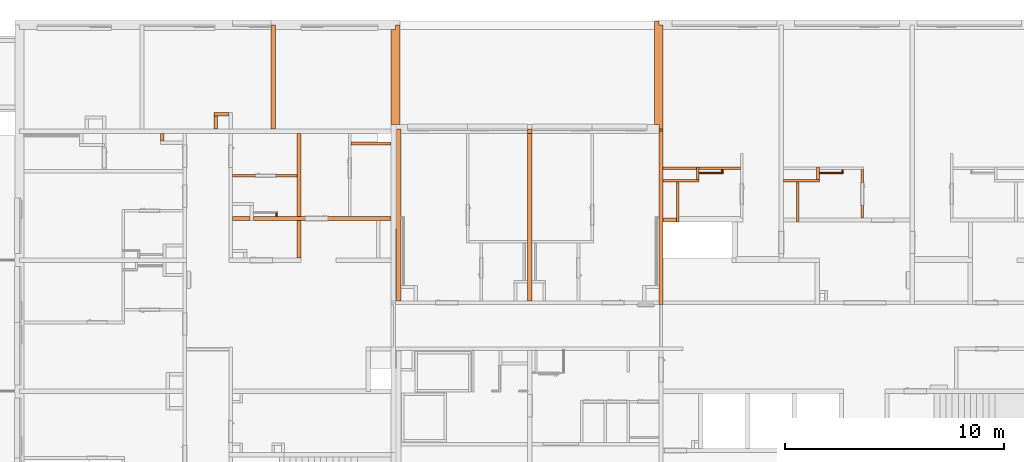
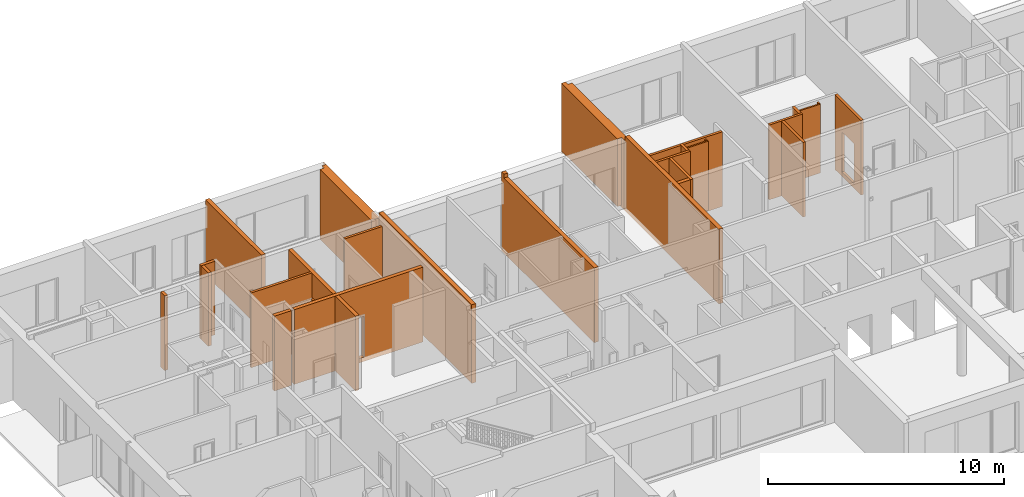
# One storey, part 41 of 46: 27 proxies, 3 openings.
"""IFC2X3 building model written with IfcOpenShell, lengths in millimetres."""

from ifc_helpers import new_model, entity, si_unit, converted_unit, derived_unit, money_unit, direction, frame, origin_with_axes, origin_2d_with_axis, place, context, subcontext, project, spatial, rectangle, extrude, faceted_brep, material, material_list, type_object, element, save


model = new_model("IFC2X3")

# Units and contexts
model_context = context("Model", 3, precision=0.01, world=origin_with_axes(), true_north=direction((0.34421633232, 0.938890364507)))
body_context = subcontext(model_context, "Body", "Model", "MODEL_VIEW")
ifc_project = project(units=[si_unit("LENGTHUNIT", "METRE", prefix="MILLI"), si_unit("AREAUNIT", "SQUARE_METRE"), si_unit("VOLUMEUNIT", "CUBIC_METRE"), converted_unit("PLANEANGLEUNIT", "DEGREE", entity("IfcPlaneAngleMeasure", 0.0174532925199), si_unit("PLANEANGLEUNIT", "RADIAN"), dimensions=[0, 0, 0, 0, 0, 0, 0]), si_unit("SOLIDANGLEUNIT", "STERADIAN"), money_unit("USD"), converted_unit("TIMEUNIT", "Year", entity("IfcTimeMeasure", 31556926.0), si_unit("TIMEUNIT", "SECOND"), dimensions=[0, 0, 1, 0, 0, 0, 0]), si_unit("MASSUNIT", "GRAM", prefix="KILO"), si_unit("THERMODYNAMICTEMPERATUREUNIT", "DEGREE_CELSIUS"), si_unit("LUMINOUSINTENSITYUNIT", "LUMEN"), si_unit("ENERGYUNIT", "JOULE", prefix="MEGA"), derived_unit("THERMALCONDUCTANCEUNIT", [(si_unit("POWERUNIT", "WATT"), 1), (si_unit("LENGTHUNIT", "METRE"), -1), (si_unit("THERMODYNAMICTEMPERATUREUNIT", "KELVIN"), -1)]), derived_unit("SPECIFICHEATCAPACITYUNIT", [(si_unit("ENERGYUNIT", "JOULE"), 1), (si_unit("MASSUNIT", "GRAM", prefix="KILO"), -1), (si_unit("THERMODYNAMICTEMPERATUREUNIT", "KELVIN"), -1)]), derived_unit("MASSDENSITYUNIT", [(si_unit("MASSUNIT", "GRAM", prefix="KILO"), 1), (si_unit("VOLUMEUNIT", "CUBIC_METRE"), -1)])], contexts=[model_context])

# Site, building, storey
site_placement = place(None, origin_with_axes())
site = spatial("IfcSite", under=ifc_project, at=site_placement, Name="USTRONIE MORSKIE", CompositionType="ELEMENT")
building_placement = place(site_placement, origin_with_axes())
building = spatial("IfcBuilding", under=site, at=building_placement, Name="Budynek", CompositionType="ELEMENT")
storey_placement = place(building_placement, origin_with_axes())
storey = spatial("IfcBuildingStorey", under=building, at=storey_placement, Name="PARTER", CompositionType="ELEMENT", Elevation=0.0)

# Proxy, opening
ifc_material_1 = material(Name="Bloczki silikatowe")
building_element_proxy_type_1 = type_object("IfcBuildingElementProxyType", Name="Bloczki silikatowe 120", PredefinedType="NOTDEFINED")
proxy_1_placement = place(storey_placement, frame((388517.920919, 743001.199021, -230.0), z_axis=(0.0, 0.0, 1.0), x_axis=(0.0, -1.0, 0.0)))
proxy_1 = element("IfcBuildingElementProxy", 1, at=proxy_1_placement, inside=storey, type_object=building_element_proxy_type_1, material=ifc_material_1, Name="SW-04", context=body_context, shape_type="Brep", body=[
    faceted_brep([(2279.99998521, -60.0, 3870.0), (2279.99998521, 60.0, 3870.0), (59.9999999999, 60.0, 3870.0), (59.9999999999, -60.0, 3870.0), (2279.99998521, -60.0, 0.0), (2279.99998521, 60.0, 0.0), (59.9999999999, 60.0, 0.0), (59.9999999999, -60.0, 0.0)], [[[0, 1, 2, 3]], [[1, 0, 4, 5]], [[1, 5, 6, 2]], [[7, 3, 2, 6]], [[4, 0, 3, 7]], [[5, 4, 7, 6]]]),
])
opening_1_placement = place(proxy_1_placement, frame((1170.0, 0.0, 230.0), z_axis=(0.0, 0.0, 1.0), x_axis=(1.0, 0.0, 0.0)))
element("IfcOpeningElement", 2, at=opening_1_placement, cuts=proxy_1, Name="Dw.4'", context=body_context, shape_type="SweptSolid", body=[
    extrude(rectangle(XDim=1020.0, YDim=2070.0, at=origin_2d_with_axis()), frame((0.0, -120.0, 1035.0), z_axis=(0.0, 1.0, 0.0), x_axis=(1.0, 0.0, 0.0)), (0.0, 0.0, 1.0), 360.0),
    extrude(rectangle(XDim=1094.0, YDim=2177.0, at=origin_2d_with_axis()), frame((0.0, -60.0, 1088.5), z_axis=(0.0, 1.0, 0.0), x_axis=(1.0, 0.0, 0.0)), (0.0, 0.0, -1.0), 120.0),
    extrude(rectangle(XDim=1094.0, YDim=2177.0, at=origin_2d_with_axis()), frame((0.0, 60.0, 1088.5), z_axis=(0.0, -1.0, 0.0), x_axis=(1.0, 0.0, 0.0)), (0.0, 0.0, -1.0), 120.0),
])

# Proxies
proxy_2_placement = place(storey_placement, frame((380077.924326, 740631.199036, -230.0), z_axis=(0.0, 0.0, 1.0), x_axis=(0.0, 1.0, 0.0)))
element("IfcBuildingElementProxy", 3, at=proxy_2_placement, inside=storey, type_object=building_element_proxy_type_1, material=ifc_material_1, Name="Ściana-010", context=body_context, shape_type="Brep", body=[
    faceted_brep([(-90.0, -60.0, 3870.0), (1740.00090117, -60.0, 3870.0), (1740.00090117, 60.0, 3870.0), (-90.0, 60.0, 3870.0), (-90.0, -60.0, 0.0), (1740.00090117, -60.0, 0.0), (1740.00090117, 60.0, 0.0), (-90.0, 60.0, 0.0)], [[[0, 1, 2, 3]], [[4, 5, 1, 0]], [[6, 2, 1, 5]], [[3, 2, 6, 7]], [[7, 4, 0, 3]], [[7, 6, 5, 4]]]),
])
proxy_3_placement = place(storey_placement, frame((379317.930522, 742431.199937, -230.0), z_axis=(0.0, 0.0, 1.0), x_axis=(1.0, 0.0, 0.0)))
element("IfcBuildingElementProxy", 4, at=proxy_3_placement, inside=storey, type_object=building_element_proxy_type_1, material=ifc_material_1, Name="Ściana-010", context=body_context, shape_type="Brep", body=[
    faceted_brep([(1739.99039729, -59.9999999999, 3870.0), (1739.99039729, 59.9999999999, 3870.0), (99.9903972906, 59.9999999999, 3870.0), (99.9903972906, -59.9999999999, 3870.0), (1739.99039729, -59.9999999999, 0.0), (1739.99039729, 59.9999999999, 0.0), (99.9903972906, 59.9999999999, 0.0), (99.9903972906, -59.9999999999, 0.0)], [[[0, 1, 2, 3]], [[1, 0, 4, 5]], [[1, 5, 6, 2]], [[7, 3, 2, 6]], [[4, 0, 3, 7]], [[5, 4, 7, 6]]]),
])

# Proxy, opening
proxy_4_placement = place(storey_placement, frame((362757.920874, 742661.199128, -230.0), z_axis=(0.0, 0.0, 1.0), x_axis=(-1.0, 0.0, 0.0)))
proxy_4 = element("IfcBuildingElementProxy", 5, at=proxy_4_placement, inside=storey, type_object=building_element_proxy_type_1, material=ifc_material_1, Name="SW-04", context=body_context, shape_type="Brep", body=[
    faceted_brep([(3059.99730875, 59.9999999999, 0.0), (3059.99730875, -59.9999999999, 0.0), (90.0, -59.9999999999, 0.0), (90.0, 59.9999999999, 0.0), (3059.99730875, 59.9999999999, 3870.0), (3059.99730875, -59.9999999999, 3870.0), (90.0, -59.9999999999, 3870.0), (90.0, 59.9999999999, 3870.0)], [[[0, 1, 2, 3]], [[1, 0, 4, 5]], [[1, 5, 6, 2]], [[7, 3, 2, 6]], [[4, 0, 3, 7]], [[5, 4, 7, 6]]]),
])
opening_2_placement = place(proxy_4_placement, frame((1539.99816017, 0.0, 230.0), z_axis=(0.0, 0.0, 1.0), x_axis=(1.0, 0.0, 0.0)))
element("IfcOpeningElement", 6, at=opening_2_placement, cuts=proxy_4, Name="Dw.4", context=body_context, shape_type="SweptSolid", body=[
    extrude(rectangle(XDim=920.0, YDim=2070.0, at=origin_2d_with_axis()), frame((0.0, -120.0, 1035.0), z_axis=(0.0, 1.0, 0.0), x_axis=(-1.0, 0.0, 0.0)), (0.0, 0.0, 1.0), 360.0),
    extrude(rectangle(XDim=994.0, YDim=2177.0, at=origin_2d_with_axis()), frame((0.0, -59.9999999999, 1088.5), z_axis=(0.0, 1.0, 0.0), x_axis=(-1.0, 0.0, 0.0)), (0.0, 0.0, -1.0), 120.0),
    extrude(rectangle(XDim=994.0, YDim=2177.0, at=origin_2d_with_axis()), frame((0.0, 60.0000000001, 1088.5), z_axis=(0.0, -1.0, 0.0), x_axis=(-1.0, 0.0, 0.0)), (0.0, 0.0, -1.0), 120.0),
])

# Proxies
proxy_5_placement = place(storey_placement, frame((385577.924326, 740631.199036, -230.0), z_axis=(0.0, 0.0, 1.0), x_axis=(0.0, 1.0, 0.0)))
element("IfcBuildingElementProxy", 7, at=proxy_5_placement, inside=storey, type_object=building_element_proxy_type_1, material=ifc_material_1, Name="Ściana-010", context=body_context, shape_type="Brep", body=[
    faceted_brep([(1740.00090117, -60.0, 3870.0), (1740.00090117, 60.0, 3870.0), (-90.0, 60.0, 3870.0), (-90.0, -60.0, 3870.0), (1740.00090117, -60.0, 0.0), (1740.00090117, 60.0, 0.0), (-90.0, 60.0, 0.0), (-90.0, -60.0, 0.0)], [[[0, 1, 2, 3]], [[1, 0, 4, 5]], [[1, 5, 6, 2]], [[7, 3, 2, 6]], [[4, 0, 3, 7]], [[5, 4, 7, 6]]]),
])
proxy_6_placement = place(storey_placement, frame((365127.901749, 744141.199036, -230.0), z_axis=(0.0, 0.0, 1.0), x_axis=(1.0, 0.0, 0.0)))
element("IfcBuildingElementProxy", 8, at=proxy_6_placement, inside=storey, type_object=building_element_proxy_type_1, material=ifc_material_1, Name="SW-04", context=body_context, shape_type="Brep", body=[
    faceted_brep([(1840.01916964, -59.9999999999, 3870.0), (1840.01916964, 59.9999999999, 3870.0), (0.0, 59.9999999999, 3870.0), (0.0, -59.9999999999, 3870.0), (1840.01916964, -59.9999999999, 0.0), (1840.01916964, 59.9999999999, 0.0), (0.0, 59.9999999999, 0.0), (0.0, -59.9999999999, 0.0)], [[[0, 1, 2, 3]], [[1, 0, 4, 5]], [[1, 5, 6, 2]], [[7, 3, 2, 6]], [[4, 0, 3, 7]], [[5, 4, 7, 6]]]),
])
proxy_7_placement = place(storey_placement, frame((383017.920919, 743001.199021, -230.0), z_axis=(0.0, 0.0, 1.0), x_axis=(-1.0, 0.0, 0.0)))
element("IfcBuildingElementProxy", 9, at=proxy_7_placement, inside=storey, type_object=building_element_proxy_type_1, material=ifc_material_1, Name="SW-04", context=body_context, shape_type="Brep", body=[
    faceted_brep([(3600.0, -59.9999999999, 3870.0), (3600.0, 59.9999999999, 3870.0), (2080.0, 59.9999999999, 3870.0), (2080.0, -59.9999999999, 3870.0), (3600.0, -59.9999999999, 0.0), (3600.0, 59.9999999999, 0.0), (2080.0, 59.9999999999, 0.0), (2080.0, -59.9999999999, 0.0)], [[[0, 1, 2, 3]], [[1, 0, 4, 5]], [[1, 5, 6, 2]], [[7, 3, 2, 6]], [[4, 0, 3, 7]], [[5, 4, 7, 6]]]),
    faceted_brep([(1960.0, -59.9999999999, 3870.0), (1960.0, 59.9999999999, 3870.0), (60.0, 59.9999999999, 3870.0), (60.0, -59.9999999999, 3870.0), (1960.0, -59.9999999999, 0.0), (1960.0, 59.9999999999, 0.0), (60.0, 59.9999999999, 0.0), (60.0, -59.9999999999, 0.0)], [[[0, 1, 2, 3]], [[1, 0, 4, 5]], [[1, 5, 6, 2]], [[7, 3, 2, 6]], [[4, 0, 3, 7]], [[5, 4, 7, 6]]]),
])
for number, where, z_axis, x_axis in (
    (10, (380997.920919, 742431.199937, -230.0), (0.0, 0.0, 1.0), (0.0, 1.0, 0.0)),
    (11, (386497.920919, 742431.199937, -230.0), (0.0, 0.0, 1.0), (0.0, 1.0, 0.0)),
):
    element("IfcBuildingElementProxy", number, at=place(storey_placement, frame(where, z_axis=z_axis, x_axis=x_axis)), inside=storey, type_object=building_element_proxy_type_1, material=ifc_material_1, Name="Ściana-010", context=body_context, shape_type="Brep", body=[
        faceted_brep([(629.999084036, -60.0, 3870.0), (629.999084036, 60.0, 3870.0), (59.9999999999, 60.0, 3870.0), (59.9999999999, -60.0, 3870.0), (629.999084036, -60.0, 0.0), (629.999084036, 60.0, 0.0), (59.9999999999, 60.0, 0.0), (59.9999999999, -60.0, 0.0)], [[[0, 1, 2, 3]], [[1, 0, 4, 5]], [[1, 5, 6, 2]], [[7, 3, 2, 6]], [[4, 0, 3, 7]], [[5, 4, 7, 6]]]),
    ])
proxy_8_placement = place(storey_placement, frame((384817.930522, 742431.199937, -230.0), z_axis=(0.0, 0.0, 1.0), x_axis=(1.0, 0.0, 0.0)))
element("IfcBuildingElementProxy", 12, at=proxy_8_placement, inside=storey, type_object=building_element_proxy_type_1, material=ifc_material_1, Name="Ściana-010", context=body_context, shape_type="Brep", body=[
    faceted_brep([(1739.99039729, -59.9999999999, 3870.0), (1739.99039729, 59.9999999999, 3870.0), (99.9903972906, 59.9999999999, 3870.0), (99.9903972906, -59.9999999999, 3870.0), (1739.99039729, -59.9999999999, 0.0), (1739.99039729, 59.9999999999, 0.0), (99.9903972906, 59.9999999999, 0.0), (99.9903972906, -59.9999999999, 0.0)], [[[0, 1, 2, 3]], [[1, 0, 4, 5]], [[1, 5, 6, 2]], [[7, 3, 2, 6]], [[4, 0, 3, 7]], [[5, 4, 7, 6]]]),
])
ifc_material_2 = material(Name="Tynk zewnętrzny")
ifc_material_3 = material(Name="Wełna ELEW")
ifc_material_4 = material(Name="Beton konstrukcyjny B25")
ifc_material_list_1 = material_list([ifc_material_2, ifc_material_3, ifc_material_4])
building_element_proxy_type_2 = type_object("IfcBuildingElementProxyType", Name="20+20 410", PredefinedType="NOTDEFINED")
proxy_9_placement = place(storey_placement, frame((379317.920919, 744701.199036, -230.0), z_axis=(0.0, 0.0, 1.0), x_axis=(0.0, 1.0, 0.0)))
element("IfcBuildingElementProxy", 13, at=proxy_9_placement, inside=storey, type_object=building_element_proxy_type_2, material=ifc_material_list_1, Name="SZ-01", context=body_context, shape_type="Brep", body=[
    faceted_brep([(5010.0, 300.0, 129.999999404), (5010.0, 300.0, 69.999999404), (5010.0, 300.0, 4.99999940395), (5010.0, 300.0, -5.96047627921e-07), (5060.0, 300.0, 0.0), (5060.0, 300.0, 3630.0), (310.0, 300.0, 3630.0), (310.0, 300.0, 129.999999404), (5010.0, 310.0, 129.999999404), (5010.0, 310.0, 69.999999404), (5010.0, 310.0, 4.99999940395), (5010.0, 310.0, -5.96047627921e-07), (5060.0, 310.0, 0.0), (5060.0, 310.0, 3630.0), (310.0, 310.0, 3630.0), (310.0, 310.0, 129.999999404)], [[[0, 1, 2, 3, 4, 5, 6, 7]], [[1, 0, 8, 9]], [[1, 9, 10, 2]], [[2, 10, 11, 3]], [[3, 11, 12, 4]], [[12, 13, 5, 4]], [[13, 14, 6, 5]], [[15, 7, 6, 14]], [[0, 7, 15, 8]], [[8, 15, 14, 13, 12, 11, 10, 9]]]),
    faceted_brep([(5010.0, 100.0, 129.999999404), (5010.0, 100.0, -5.96047627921e-07), (5050.0, 100.0, 0.0), (5050.0, 100.0, 3630.0), (300.0, 100.0, 3630.0), (300.0, 100.0, 129.999999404), (5010.0, 300.0, 129.999999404), (5010.0, 300.0, -5.96047627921e-07), (5050.0, 300.0, 0.0), (5050.0, 300.0, 3630.0), (300.0, 300.0, 3630.0), (300.0, 300.0, 129.999999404)], [[[0, 1, 2, 3, 4, 5]], [[0, 6, 7, 1]], [[1, 7, 8, 2]], [[8, 9, 3, 2]], [[9, 10, 4, 3]], [[11, 5, 4, 10]], [[0, 5, 11, 6]], [[6, 11, 10, 9, 8, 7]]]),
    faceted_brep([(100.0, 100.0, 3630.0), (100.0, -100.0, 3630.0), (4850.0, -100.0, 3630.0), (4850.0, 100.0, 3630.0), (100.0, -100.0, 0.0), (100.0, 100.0, 0.0), (4850.0, -100.0, 0.0), (4850.0, 100.0, 0.0)], [[[0, 1, 2, 3]], [[4, 1, 0, 5]], [[1, 4, 6, 2]], [[7, 3, 2, 6]], [[5, 0, 3, 7]], [[4, 5, 7, 6]]]),
])
ifc_material_list_2 = material_list([ifc_material_4, ifc_material_3, ifc_material_2])
proxy_10_placement = place(storey_placement, frame((367067.920919, 745001.199036, -230.0), z_axis=(0.0, 0.0, 1.0), x_axis=(0.0, 1.0, 0.0)))
element("IfcBuildingElementProxy", 14, at=proxy_10_placement, inside=storey, type_object=building_element_proxy_type_2, material=ifc_material_list_2, Name="SZ-01", context=body_context, shape_type="Brep", body=[
    faceted_brep([(4350.0, -100.0, 0.0), (0.0, -100.0, 0.0), (0.0, 100.0, 0.0), (4350.0, 100.0, 0.0), (4350.0, -100.0, 3630.0), (0.0, -100.0, 3630.0), (0.0, 100.0, 3630.0), (4350.0, 100.0, 3630.0)], [[[0, 1, 2, 3]], [[4, 5, 1, 0]], [[2, 1, 5, 6]], [[3, 2, 6, 7]], [[3, 7, 4, 0]], [[7, 6, 5, 4]]]),
    faceted_brep([(0.0, -300.0, 129.999999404), (4550.0, -300.0, 129.999999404), (4550.0, -300.0, 3630.0), (0.0, -300.0, 3630.0), (4550.0, -150.0, 129.999999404), (0.0, -150.0, 129.999999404), (4550.0, -150.0, -5.96047627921e-07), (4550.0, -100.0, 0.0), (4550.0, -100.0, 3630.0), (0.0, -100.0, 3630.0), (0.0, -100.0, 0.0), (0.0, -150.0, -5.96047627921e-07)], [[[0, 1, 2, 3]], [[4, 1, 0, 5]], [[4, 6, 7, 8, 2, 1]], [[2, 8, 9, 3]], [[5, 0, 3, 9, 10, 11]], [[4, 5, 11, 6]], [[6, 11, 10, 7]], [[8, 7, 10, 9]]]),
    faceted_brep([(4710.0, -310.0, 129.999999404), (4710.0, -310.0, -5.96047627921e-07), (4750.0, -310.0, 0.0), (4750.0, -310.0, 3630.0), (0.0, -310.0, 3630.0), (0.0, -310.0, 129.999999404), (4710.0, -300.0, 129.999999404), (4710.0, -300.0, -5.96047627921e-07), (4750.0, -300.0, 0.0), (4750.0, -300.0, 3630.0), (0.0, -300.0, 3630.0), (0.0, -300.0, 129.999999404)], [[[0, 1, 2, 3, 4, 5]], [[0, 6, 7, 1]], [[1, 7, 8, 2]], [[2, 8, 9, 3]], [[3, 9, 10, 4]], [[11, 5, 4, 10]], [[0, 5, 11, 6]], [[6, 11, 10, 9, 8, 7]]]),
])
building_element_proxy_type_3 = type_object("IfcBuildingElementProxyType", Name="Bloczki silikatowe 180", PredefinedType="NOTDEFINED")
proxy_11_placement = place(storey_placement, frame((379317.92443, 740631.199036, -230.0), z_axis=(0.0, 0.0, 1.0), x_axis=(1.0, 0.0, 0.0)))
element("IfcBuildingElementProxy", 15, at=proxy_11_placement, inside=storey, type_object=building_element_proxy_type_3, material=ifc_material_1, Name="SW-02", context=body_context, shape_type="Brep", body=[
    faceted_brep([(99.9964886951, -90.0, 3870.0), (699.9998961, -90.0, 3870.0), (699.9998961, 90.0, 3870.0), (99.9964886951, 90.0, 3870.0), (99.9964886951, -90.0, 0.0), (699.9998961, -90.0, 0.0), (699.9998961, 90.0, 0.0), (99.9964886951, 90.0, 0.0)], [[[0, 1, 2, 3]], [[4, 5, 1, 0]], [[5, 6, 2, 1]], [[3, 2, 6, 7]], [[3, 7, 4, 0]], [[7, 6, 5, 4]]]),
])
proxy_12_placement = place(storey_placement, frame((362757.920874, 744701.199036, -230.0), z_axis=(0.0, 0.0, 1.0), x_axis=(0.0, -1.0, 0.0)))
element("IfcBuildingElementProxy", 16, at=proxy_12_placement, inside=storey, type_object=building_element_proxy_type_3, material=ifc_material_1, Name="SW-02", context=body_context, shape_type="Brep", body=[
    faceted_brep([(3900.01956003, -90.0, 3870.0), (3900.01956003, 90.0, 3870.0), (100.0, 90.0, 3870.0), (100.0, -90.0, 3870.0), (3900.01956003, -90.0, 0.0), (3900.01956003, 90.0, 0.0), (100.0, 90.0, 0.0), (100.0, -90.0, 0.0)], [[[0, 1, 2, 3]], [[1, 0, 4, 5]], [[1, 5, 6, 2]], [[7, 3, 2, 6]], [[4, 0, 3, 7]], [[5, 4, 7, 6]]]),
    faceted_brep([(5800.0, -90.0, 3870.0), (5800.0, 90.0, 3870.0), (4080.01956003, 90.0, 3870.0), (4080.01956003, -90.0, 3870.0), (5800.0, -90.0, 0.0), (5800.0, 90.0, 0.0), (4080.01956003, 90.0, 0.0), (4080.01956003, -90.0, 0.0)], [[[0, 1, 2, 3]], [[1, 0, 4, 5]], [[1, 5, 6, 2]], [[7, 3, 2, 6]], [[4, 0, 3, 7]], [[5, 4, 7, 6]]]),
])

# Proxy, opening
proxy_13_placement = place(storey_placement, frame((359617.923565, 740711.179476, -230.0), z_axis=(0.0, 0.0, 1.0), x_axis=(1.0, 0.0, 0.0)))
proxy_13 = element("IfcBuildingElementProxy", 17, at=proxy_13_placement, inside=storey, type_object=building_element_proxy_type_3, material=ifc_material_1, Name="SW-02", context=body_context, shape_type="Brep", body=[
    faceted_brep([(899.999148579, 90.0, 0.0), (899.999148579, -90.0, 0.0), (80.0, -90.0, 0.0), (80.0, 90.0, 0.0), (899.999148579, 90.0, 3870.0), (899.999148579, -90.0, 3870.0), (80.0, -90.0, 3870.0), (80.0, 90.0, 3870.0)], [[[0, 1, 2, 3]], [[1, 0, 4, 5]], [[1, 5, 6, 2]], [[7, 3, 2, 6]], [[4, 0, 3, 7]], [[5, 4, 7, 6]]]),
    faceted_brep([(7349.99735394, 90.0, 0.0), (7349.99735394, -90.0, 0.0), (1049.99914858, -90.0, 0.0), (1049.99914858, 90.0, 0.0), (7349.99735394, 90.0, 3870.0), (7349.99735394, -90.0, 3870.0), (1049.99914858, -90.0, 3870.0), (1049.99914858, 90.0, 3870.0)], [[[0, 1, 2, 3]], [[1, 0, 4, 5]], [[1, 5, 6, 2]], [[7, 3, 2, 6]], [[4, 0, 3, 7]], [[5, 4, 7, 6]]]),
])
opening_3_placement = place(proxy_13_placement, frame((3939.99730875, 0.0, 230.0), z_axis=(0.0, 0.0, 1.0), x_axis=(1.0, 0.0, 0.0)))
element("IfcOpeningElement", 18, at=opening_3_placement, cuts=proxy_13, Name="Dw.1", context=body_context, shape_type="SweptSolid", body=[
    extrude(rectangle(XDim=1020.0, YDim=2120.0, at=origin_2d_with_axis()), frame((0.0, -180.0, 1060.0), z_axis=(0.0, -1.0, 0.0), x_axis=(-1.0, 0.0, 0.0)), (0.0, 0.0, -1.0), 540.0),
    extrude(rectangle(XDim=1094.0, YDim=2227.0, at=origin_2d_with_axis()), frame((0.0, -90.0, 1113.5), z_axis=(0.0, -1.0, 0.0), x_axis=(-1.0, 0.0, 0.0)), (0.0, 0.0, 1.0), 180.0),
    extrude(rectangle(XDim=1094.0, YDim=2227.0, at=origin_2d_with_axis()), frame((0.0, 89.9999999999, 1113.5), z_axis=(0.0, 1.0, 0.0), x_axis=(-1.0, 0.0, 0.0)), (0.0, 0.0, 1.0), 180.0),
])

# Proxies
ifc_material_5 = material(Name="Płyta GK")
ifc_material_6 = material(Name="-Pustka powietrzna")
ifc_material_list_3 = material_list([ifc_material_5, ifc_material_5, ifc_material_6])
building_element_proxy_type_4 = type_object("IfcBuildingElementProxyType", Name="330-SD GK 2-warstwy 75", PredefinedType="NOTDEFINED")
proxy_14_placement = place(storey_placement, frame((361742.922714, 741001.179476, -180.0), z_axis=(0.0, 0.0, 1.0), x_axis=(0.0, -1.0, 0.0)))
element("IfcBuildingElementProxy", 19, at=proxy_14_placement, inside=storey, type_object=building_element_proxy_type_4, material=ifc_material_list_3, Name="Ściana-009", context=body_context, shape_type="Brep", body=[
    faceted_brep([(200.0, 25.0, 165.0), (-12.5, 25.0, 165.0), (-12.5, 25.0, 3820.0), (200.0, 25.0, 3820.0), (-12.5, 12.5, 165.0), (200.0, 12.5, 165.0), (-12.5, 12.5, 3820.0), (200.0, 12.5, 3820.0)], [[[0, 1, 2, 3]], [[4, 1, 0, 5]], [[1, 4, 6, 2]], [[7, 3, 2, 6]], [[5, 0, 3, 7]], [[4, 5, 7, 6]]]),
    faceted_brep([(200.0, 12.5, 165.0), (0.0, 12.5, 165.0), (0.0, 12.5, 3820.0), (200.0, 12.5, 3820.0), (0.0, 0.0, 165.0), (200.0, 0.0, 165.0), (0.0, 0.0, 3820.0), (200.0, 0.0, 3820.0)], [[[0, 1, 2, 3]], [[4, 1, 0, 5]], [[1, 4, 6, 2]], [[7, 3, 2, 6]], [[5, 0, 3, 7]], [[4, 5, 7, 6]]]),
    faceted_brep([(200.0, 0.0, 180.0), (50.0, 0.0, 180.0), (50.0, 0.0, 3820.0), (200.0, 0.0, 3820.0), (50.0, -50.0, 180.0), (200.0, -50.0, 180.0), (50.0, -50.0, 3820.0), (200.0, -50.0, 3820.0)], [[[0, 1, 2, 3]], [[4, 1, 0, 5]], [[1, 4, 6, 2]], [[7, 3, 2, 6]], [[5, 0, 3, 7]], [[4, 5, 7, 6]]]),
])
proxy_15_placement = place(storey_placement, frame((382132.920919, 742771.199021, -160.0), z_axis=(0.0, 0.0, 1.0), x_axis=(-1.0, 0.0, 0.0)))
element("IfcBuildingElementProxy", 20, at=proxy_15_placement, inside=storey, type_object=building_element_proxy_type_4, material=ifc_material_list_3, Name="Ściana-009", context=body_context, shape_type="Brep", body=[
    faceted_brep([(-25.0, 25.0, 145.0), (-25.0, 12.5, 145.0), (-25.0, 12.5, 3710.0), (-25.0, 25.0, 3710.0), (1075.0, 12.5, 145.0), (1075.0, 25.0, 145.0), (1075.0, 12.5, 3710.0), (1075.0, 25.0, 3710.0)], [[[0, 1, 2, 3]], [[4, 1, 0, 5]], [[1, 4, 6, 2]], [[6, 7, 3, 2]], [[5, 0, 3, 7]], [[4, 5, 7, 6]]]),
    faceted_brep([(-12.5, 12.5, 145.0), (-12.5, 0.0, 145.0), (-12.5, 0.0, 3710.0), (-12.5, 12.5, 3710.0), (1075.0, 0.0, 145.0), (1075.0, 12.5, 145.0), (1075.0, 0.0, 3710.0), (1075.0, 12.5, 3710.0)], [[[0, 1, 2, 3]], [[4, 1, 0, 5]], [[1, 4, 6, 2]], [[6, 7, 3, 2]], [[5, 0, 3, 7]], [[4, 5, 7, 6]]]),
    faceted_brep([(0.0, 0.0, 160.0), (0.0, -50.0, 160.0), (0.0, -50.0, 3710.0), (0.0, 0.0, 3710.0), (1075.0, -50.0, 160.0), (1075.0, 0.0, 160.0), (1075.0, -50.0, 3710.0), (1075.0, 0.0, 3710.0)], [[[0, 1, 2, 3]], [[4, 1, 0, 5]], [[1, 4, 6, 2]], [[6, 7, 3, 2]], [[5, 0, 3, 7]], [[4, 5, 7, 6]]]),
])
ifc_material_list_4 = material_list([ifc_material_6, ifc_material_5, ifc_material_5])
for number, where, z_axis, x_axis in (
    (21, (382132.920919, 742771.199021, -160.0), (0.0, 0.0, 1.0), (0.0, 1.0, 0.0)),
    (22, (387632.930522, 742771.199021, -160.0), (0.0, 0.0, 1.0), (0.0, 1.0, 0.0)),
):
    element("IfcBuildingElementProxy", number, at=place(storey_placement, frame(where, z_axis=z_axis, x_axis=x_axis)), inside=storey, type_object=building_element_proxy_type_4, material=ifc_material_list_4, Name="Ściana-009", context=body_context, shape_type="Brep", body=[
        faceted_brep([(50.0, 0.0, 160.0), (170.0, 0.0, 160.0), (170.0, 0.0, 3710.0), (50.0, 0.0, 3710.0), (170.0, 50.0, 160.0), (50.0, 50.0, 160.0), (170.0, 50.0, 3710.0), (50.0, 50.0, 3710.0)], [[[0, 1, 2, 3]], [[4, 1, 0, 5]], [[1, 4, 6, 2]], [[2, 6, 7, 3]], [[5, 0, 3, 7]], [[4, 5, 7, 6]]]),
        faceted_brep([(0.0, -12.5, 145.0), (170.0, -12.5, 145.0), (170.0, -12.5, 3710.0), (0.0, -12.5, 3710.0), (170.0, 0.0, 145.0), (0.0, 0.0, 145.0), (170.0, 0.0, 3710.0), (0.0, 0.0, 3710.0)], [[[0, 1, 2, 3]], [[4, 1, 0, 5]], [[1, 4, 6, 2]], [[2, 6, 7, 3]], [[5, 0, 3, 7]], [[4, 5, 7, 6]]]),
        faceted_brep([(-12.5, -25.0, 145.0), (170.0, -25.0, 145.0), (170.0, -25.0, 3710.0), (-12.5, -25.0, 3710.0), (170.0, -12.5, 145.0), (-12.5, -12.5, 145.0), (170.0, -12.5, 3710.0), (-12.5, -12.5, 3710.0)], [[[0, 1, 2, 3]], [[4, 1, 0, 5]], [[1, 4, 6, 2]], [[2, 6, 7, 3]], [[5, 0, 3, 7]], [[4, 5, 7, 6]]]),
    ])
proxy_16_placement = place(storey_placement, frame((387632.930522, 742771.199021, -230.0), z_axis=(0.0, 0.0, 1.0), x_axis=(-1.0, 0.0, 0.0)))
element("IfcBuildingElementProxy", 23, at=proxy_16_placement, inside=storey, type_object=building_element_proxy_type_4, material=ifc_material_list_3, Name="Ściana-009", context=body_context, shape_type="Brep", body=[
    faceted_brep([(-25.0, 25.0, 215.0), (-25.0, 12.5, 215.0), (-25.0, 12.5, 3780.0), (-25.0, 25.0, 3780.0), (1075.00960271, 12.5, 215.0), (1075.00960271, 25.0, 215.0), (1075.00960271, 12.5, 3780.0), (1075.00960271, 25.0, 3780.0)], [[[0, 1, 2, 3]], [[4, 1, 0, 5]], [[1, 4, 6, 2]], [[7, 3, 2, 6]], [[5, 0, 3, 7]], [[4, 5, 7, 6]]]),
    faceted_brep([(-12.5, 12.5, 215.0), (-12.5, 0.0, 215.0), (-12.5, 0.0, 3780.0), (-12.5, 12.5, 3780.0), (1075.00960271, 0.0, 215.0), (1075.00960271, 12.5, 215.0), (1075.00960271, 0.0, 3780.0), (1075.00960271, 12.5, 3780.0)], [[[0, 1, 2, 3]], [[4, 1, 0, 5]], [[1, 4, 6, 2]], [[7, 3, 2, 6]], [[5, 0, 3, 7]], [[4, 5, 7, 6]]]),
    faceted_brep([(0.0, 0.0, 230.0), (0.0, -50.0, 230.0), (0.0, -50.0, 3780.0), (0.0, 0.0, 3780.0), (1075.00960271, -50.0, 230.0), (1075.00960271, 0.0, 230.0), (1075.00960271, -50.0, 3780.0), (1075.00960271, 0.0, 3780.0)], [[[0, 1, 2, 3]], [[4, 1, 0, 5]], [[1, 4, 6, 2]], [[7, 3, 2, 6]], [[5, 0, 3, 7]], [[4, 5, 7, 6]]]),
])
building_element_proxy_type_5 = type_object("IfcBuildingElementProxyType", Name="Bloczki silikatowe 150", PredefinedType="NOTDEFINED")
proxy_17_placement = place(storey_placement, frame((356477.920018, 744701.199036, -230.0), z_axis=(0.0, 0.0, 1.0), x_axis=(0.0, -1.0, 0.0)))
element("IfcBuildingElementProxy", 24, at=proxy_17_placement, inside=storey, type_object=building_element_proxy_type_5, material=ifc_material_1, Name="SW-04", context=body_context, shape_type="Brep", body=[
    faceted_brep([(450.0, 90.0, 0.0), (450.0, -60.0, 0.0), (100.0, -60.0, 0.0), (100.0, 90.0, 0.0), (450.0, 90.0, 3870.0), (450.0, -60.0, 3870.0), (100.0, -60.0, 3870.0), (100.0, 90.0, 3870.0)], [[[0, 1, 2, 3]], [[1, 0, 4, 5]], [[1, 5, 6, 2]], [[7, 3, 2, 6]], [[4, 0, 3, 7]], [[5, 4, 7, 6]]]),
])
proxy_18_placement = place(storey_placement, frame((358927.921749, 744701.199036, -160.0), z_axis=(0.0, 0.0, 1.0), x_axis=(0.0, 1.0, 0.0)))
element("IfcBuildingElementProxy", 25, at=proxy_18_placement, inside=storey, type_object=building_element_proxy_type_5, material=ifc_material_1, Name="SW-03", context=body_context, shape_type="Brep", body=[
    faceted_brep([(700.001752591, -90.0, 3800.0), (700.001752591, 60.0, 3800.0), (100.0, 60.0, 3800.0), (100.0, -90.0, 3800.0), (700.001752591, -90.0, 0.0), (700.001752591, 60.0, 0.0), (100.0, 60.0, 0.0), (100.0, -90.0, 0.0)], [[[0, 1, 2, 3]], [[1, 0, 4, 5]], [[1, 5, 6, 2]], [[7, 3, 2, 6]], [[4, 0, 3, 7]], [[5, 4, 7, 6]]]),
])
proxy_19_placement = place(storey_placement, frame((359617.923565, 745461.200789, -160.0), z_axis=(0.0, 0.0, 1.0), x_axis=(-1.0, 0.0, 0.0)))
element("IfcBuildingElementProxy", 26, at=proxy_19_placement, inside=storey, type_object=building_element_proxy_type_5, material=ifc_material_1, Name="SW-03", context=body_context, shape_type="Brep", body=[
    faceted_brep([(750.001816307, -90.0, 3800.0), (750.001816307, 59.9999999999, 3800.0), (80.0, 59.9999999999, 3800.0), (80.0, -90.0, 3800.0), (750.001816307, -90.0, 0.0), (750.001816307, 59.9999999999, 0.0), (80.0, 59.9999999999, 0.0), (80.0, -90.0, 0.0)], [[[0, 1, 2, 3]], [[1, 0, 4, 5]], [[1, 5, 6, 2]], [[7, 3, 2, 6]], [[4, 0, 3, 7]], [[5, 4, 7, 6]]]),
])
building_element_proxy_type_6 = type_object("IfcBuildingElementProxyType", Name="Beton konstrukcyjny B25 200", PredefinedType="NOTDEFINED")
proxy_20_placement = place(storey_placement, frame((379317.920919, 744701.199036, -230.0), z_axis=(0.0, 0.0, 1.0), x_axis=(0.0, -1.0, 0.0)))
element("IfcBuildingElementProxy", 27, at=proxy_20_placement, inside=storey, type_object=building_element_proxy_type_6, material=ifc_material_4, Name="SW-01", context=body_context, shape_type="Brep", body=[
    faceted_brep([(7930.0, 100.0, 0.0), (-100.0, 100.0, 0.0), (-100.0, 100.0, 3630.0), (0.0, 100.0, 3630.0), (0.0, 100.0, 3870.0), (7930.0, 100.0, 3870.0), (7930.0, 100.0, 50.0), (7930.0, -100.0, 0.0), (-100.0, -100.0, 0.0), (-100.0, -100.0, 3630.0), (0.0, -100.0, 3630.0), (0.0, -100.0, 3870.0), (7930.0, -100.0, 3870.0), (7930.0, -100.0, 50.0)], [[[0, 1, 2, 3, 4, 5, 6]], [[7, 8, 1, 0]], [[8, 9, 2, 1]], [[3, 2, 9, 10]], [[3, 10, 11, 4]], [[4, 11, 12, 5]], [[5, 12, 13, 6]], [[13, 7, 0, 6]], [[10, 9, 8, 7, 13, 12, 11]]]),
])
proxy_21_placement = place(storey_placement, frame((361567.920919, 749451.199036, -230.0), z_axis=(0.0, 0.0, 1.0), x_axis=(0.0, -1.0, 0.0)))
element("IfcBuildingElementProxy", 28, at=proxy_21_placement, inside=storey, type_object=building_element_proxy_type_6, material=ifc_material_4, Name="SW-01", context=body_context, shape_type="Brep", body=[
    faceted_brep([(-100.0, 100.0, 0.0), (-100.0, 100.0, 3870.0), (4650.0, 100.0, 3870.0), (4650.0, 100.0, 0.0), (-100.0, -100.0, 0.0), (-100.0, -100.0, 3870.0), (4650.0, -100.0, 3870.0), (4650.0, -100.0, 0.0)], [[[0, 1, 2, 3]], [[4, 5, 1, 0]], [[2, 1, 5, 6]], [[7, 3, 2, 6]], [[7, 4, 0, 3]], [[6, 5, 4, 7]]]),
])
proxy_22_placement = place(storey_placement, frame((373317.920919, 744701.199036, -230.0), z_axis=(0.0, 0.0, 1.0), x_axis=(0.0, -1.0, 0.0)))
element("IfcBuildingElementProxy", 29, at=proxy_22_placement, inside=storey, type_object=building_element_proxy_type_6, material=ifc_material_4, Name="SW-01", context=body_context, shape_type="Brep", body=[
    faceted_brep([(-100.000285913, -100.0, 4070.0), (99.9929665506, -100.0, 4070.0), (99.9927378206, 100.0, 4070.0), (-100.000285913, 100.0, 4070.0), (7770.0, -100.0, 3870.0), (99.9929665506, -100.0, 3870.0), (-100.0, -100.0, 0.0), (7770.0, -100.0, 0.0), (99.9927378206, 100.0, 3870.0), (7770.0, 100.0, 3870.0), (7770.0, 100.0, 0.0), (-100.0, 100.0, 0.0)], [[[0, 1, 2, 3]], [[4, 5, 1, 0, 6, 7]], [[5, 8, 2, 1]], [[2, 8, 9, 10, 11, 3]], [[0, 3, 11, 6]], [[4, 9, 8, 5]], [[6, 11, 10, 7]], [[10, 9, 4, 7]]]),
])
proxy_23_placement = place(storey_placement, frame((367317.920919, 744701.199036, -230.0), z_axis=(0.0, 0.0, 1.0), x_axis=(0.0, -1.0, 0.0)))
element("IfcBuildingElementProxy", 30, at=proxy_23_placement, inside=storey, type_object=building_element_proxy_type_6, material=ifc_material_4, Name="SW-01", context=body_context, shape_type="Brep", body=[
    faceted_brep([(-100.000285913, -100.0, 4070.0), (7770.0, -100.0, 4070.0), (7770.0, 100.006794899, 4070.0), (-100.000285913, 100.0, 4070.0), (7770.0, -100.0, 0.0), (-100.0, -100.0, 109.999999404), (0.0, -100.0, 109.999999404), (0.0, -100.0, 0.0), (7770.0, 100.0, 0.0), (7770.0, 100.006794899, 3870.0), (0.0, 100.0, 0.0), (0.0, 100.0, 109.999999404), (-100.0, 100.0, 109.999999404)], [[[0, 1, 2, 3]], [[4, 1, 0, 5, 6, 7]], [[8, 9, 2, 1, 4]], [[3, 2, 9, 8, 10, 11, 12]], [[0, 3, 12, 5]], [[11, 6, 5, 12]], [[10, 7, 6, 11]], [[7, 10, 8, 4]]]),
])

save(model, "model.ifc")
